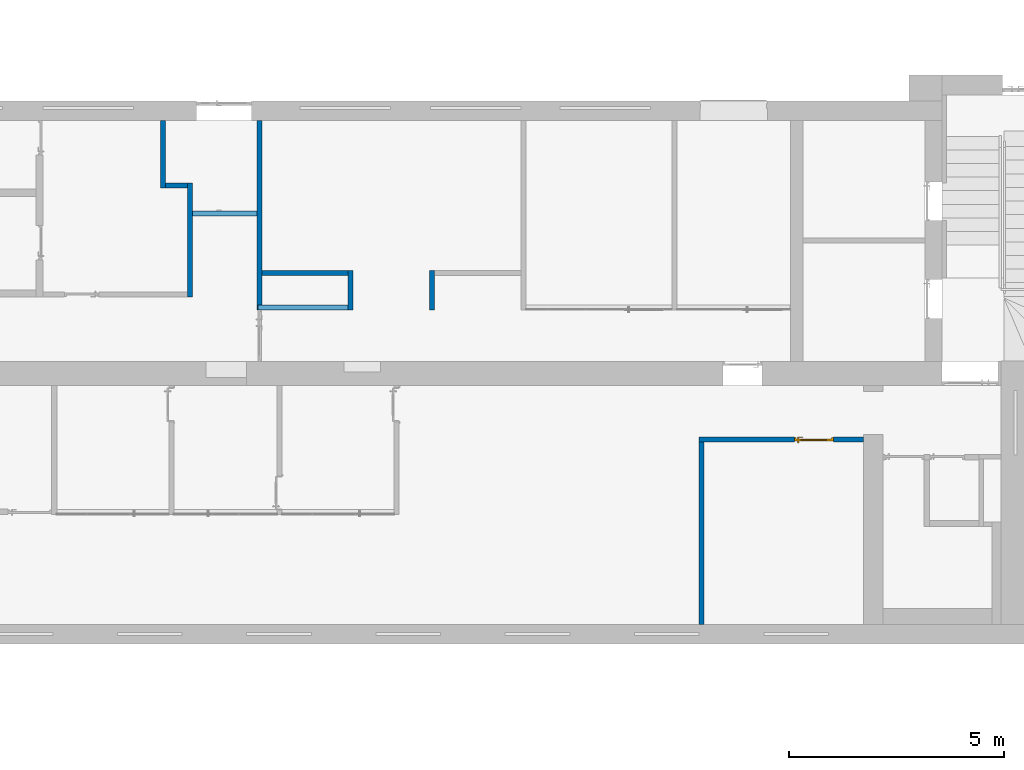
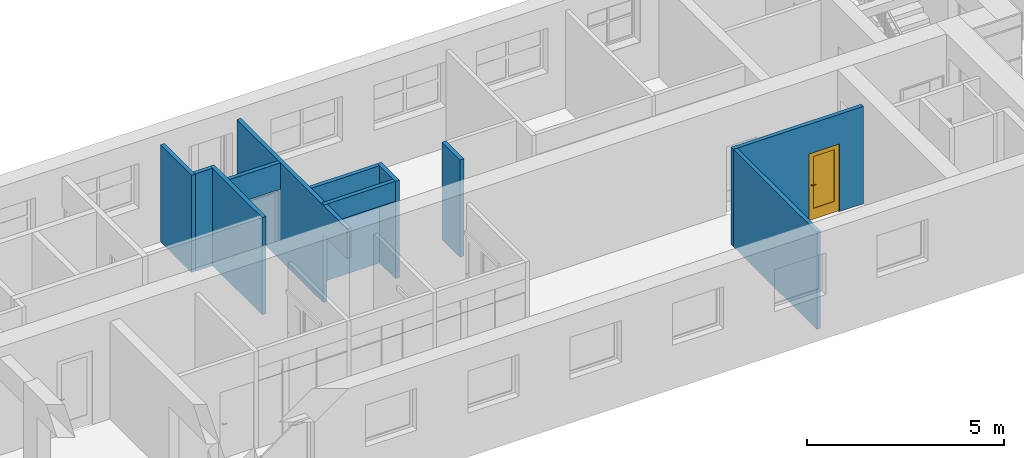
# One storey, part 24 of 49: 11 walls, 1 door, 4 openings.
"""IFC2X3 building model written with IfcOpenShell, lengths in millimetres."""

from ifc_helpers import new_model, entity, si_unit, converted_unit, derived_unit, direction, frame, frame_2d, origin, place, context, subcontext, project, spatial, rectangle, extrude, faceted_brep, source, transform, mapped, material, material_list, layer, layer_set, layer_usage, type_object, type_shapes, element, fill, save


model = new_model("IFC2X3")

# Units and contexts
model_context = context("Model", 3, precision=0.01, world=origin(), true_north=direction((6.12303176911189e-17, 1.0)))
body_context = subcontext(model_context, "Body", "Model", "MODEL_VIEW")
ifc_project = project(units=[si_unit("LENGTHUNIT", "METRE", prefix="MILLI"), si_unit("AREAUNIT", "SQUARE_METRE"), si_unit("VOLUMEUNIT", "CUBIC_METRE"), converted_unit("PLANEANGLEUNIT", "DEGREE", entity("IfcRatioMeasure", 0.0174532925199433), si_unit("PLANEANGLEUNIT", "RADIAN"), dimensions=[0, 0, 0, 0, 0, 0, 0]), si_unit("MASSUNIT", "GRAM", prefix="KILO"), derived_unit("MASSDENSITYUNIT", [(si_unit("MASSUNIT", "GRAM", prefix="KILO"), 1), (si_unit("LENGTHUNIT", "METRE"), -3)]), si_unit("TIMEUNIT", "SECOND"), si_unit("FREQUENCYUNIT", "HERTZ"), si_unit("THERMODYNAMICTEMPERATUREUNIT", "DEGREE_CELSIUS"), derived_unit("THERMALTRANSMITTANCEUNIT", [(si_unit("MASSUNIT", "GRAM", prefix="KILO"), 1), (si_unit("THERMODYNAMICTEMPERATUREUNIT", "KELVIN"), -1), (si_unit("TIMEUNIT", "SECOND"), -3)]), derived_unit("VOLUMETRICFLOWRATEUNIT", [(si_unit("LENGTHUNIT", "METRE"), 3), (si_unit("TIMEUNIT", "SECOND"), -1)]), si_unit("ELECTRICCURRENTUNIT", "AMPERE"), si_unit("ELECTRICVOLTAGEUNIT", "VOLT"), si_unit("POWERUNIT", "WATT"), si_unit("FORCEUNIT", "NEWTON", prefix="KILO"), si_unit("ILLUMINANCEUNIT", "LUX"), si_unit("LUMINOUSFLUXUNIT", "LUMEN"), si_unit("LUMINOUSINTENSITYUNIT", "CANDELA"), derived_unit("USERDEFINED", [(si_unit("MASSUNIT", "GRAM", prefix="KILO"), -1), (si_unit("LENGTHUNIT", "METRE"), -2), (si_unit("TIMEUNIT", "SECOND"), 3), (si_unit("LUMINOUSFLUXUNIT", "LUMEN"), 1)]), derived_unit("LINEARVELOCITYUNIT", [(si_unit("LENGTHUNIT", "METRE"), 1), (si_unit("TIMEUNIT", "SECOND"), -1)]), si_unit("PRESSUREUNIT", "PASCAL"), derived_unit("USERDEFINED", [(si_unit("LENGTHUNIT", "METRE"), -2), (si_unit("MASSUNIT", "GRAM", prefix="KILO"), 1), (si_unit("TIMEUNIT", "SECOND"), -2)])], contexts=[model_context])

# Site, building, storey
site_placement = place(None, frame((-151.875543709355, 2715.0, 0.0)))
site = spatial("IfcSite", under=ifc_project, at=site_placement, Name="Surface", CompositionType="ELEMENT")
building_placement = place(site_placement, origin())
building = spatial("IfcBuilding", under=site, at=building_placement, CompositionType="ELEMENT")
storey_placement = place(building_placement, origin())
storey = spatial("IfcBuildingStorey", under=building, at=storey_placement, Name="1 korrus", CompositionType="ELEMENT", Elevation=3.0969999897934e-10)

# Wall, opening, door
ifc_material_1 = material(Name="__Kips GN13_tava")
ifc_layer_1 = layer(ifc_material_1, 12.5)
ifc_layer_2 = layer(ifc_material_1, 12.5)
ifc_material_2 = material(Name="__Soojustus EPS")
ifc_layer_3 = layer(ifc_material_2, 66.0)
ifc_layer_4 = layer(ifc_material_1, 12.5)
ifc_layer_5 = layer(ifc_material_1, 12.5)
ifc_layer_set = layer_set([ifc_layer_1, ifc_layer_2, ifc_layer_3, ifc_layer_4, ifc_layer_5], Name="Basic Wall:SS-3_Kipssein tava ruumide vahel")
ifc_layer_usage_1 = layer_usage(ifc_layer_set, "AXIS2", "POSITIVE", -58.0)
wall_type = type_object("IfcWallType", Name="Basic Wall:SS-3_Kipssein tava ruumide vahel", PredefinedType="STANDARD", material=ifc_layer_set)
wall_1_placement = place(storey_placement, frame((26730.74126427, 4752.0, 0.0)))
wall_1 = element("IfcWallStandardCase", 1, at=wall_1_placement, inside=storey, type_object=wall_type, material=ifc_layer_usage_1, Name="Basic Wall:SS-3_Kipssein tava ruumide vahel", ObjectType="Basic Wall:SS-3_Kipssein tava ruumide vahel", context=body_context, shape_type="SweptSolid", body=[
    extrude(rectangle(XDim=3813.27589513, YDim=116.0, at=frame_2d((1906.637947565, 6.3948846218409e-14), x_axis=(-1.0, 0.0))), origin(), (0.0, 0.0, 1.0), 3020.0),
])
opening_1_placement = place(wall_1_placement, frame((3113.27589521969, 58.0, 0.0)))
opening_1 = element("IfcOpeningElement", 2, at=opening_1_placement, cuts=wall_1, Name="Ühepoolsed:SU-02:1", ObjectType="Opening", context=body_context, shape_type="SweptSolid", body=[
    extrude(rectangle(XDim=2099.99999999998, YDim=900.0, at=frame_2d((1049.99999999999, 450.0), x_axis=(1.0, 0.0))), frame((0.0, 0.0, 0.0), z_axis=(0.0, -1.0, 0.0), x_axis=(0.0, 0.0, 1.0)), (0.0, 0.0, 1.0), 116.0),
])
ifc_material_3 = material(Name="_Alumiiniumprofiil - must")
ifc_material_4 = material(Name="__Uks_hele tamm")
ifc_material_5 = material(Name="Glass")
ifc_material_list_1 = material_list([ifc_material_3, ifc_material_4, ifc_material_5])
ifc_material_list_2 = material_list([ifc_material_3, ifc_material_4, ifc_material_5])
door_style = type_object("IfcDoorStyle", Name="SU-02", ConstructionType="NOTDEFINED", OperationType="FOLDING_TO_LEFT", ParameterTakesPrecedence=False, Sizeable=False, material=ifc_material_list_2)
shared_shape = source(origin(), body_context, "Body", "Brep", [
    faceted_brep([(800.0, 6.0, 1112.5), (705.0, 6.0, 1112.5), (705.0, 1.0, 1112.5), (825.0, 1.0, 1112.5), (825.0, 44.0, 1112.5), (800.0, 44.0, 1112.5), (800.0, 6.0, 1087.5), (800.0, 44.0, 1087.5), (825.0, 44.0, 1087.5), (825.0, 1.0, 1087.5), (705.0, 1.0, 1087.5), (705.0, 6.0, 1087.5)], [[[0, 1, 2, 3, 4, 5]], [[6, 7, 8, 9, 10, 11]], [[5, 7, 6, 0]], [[4, 8, 7, 5]], [[3, 9, 8, 4]], [[2, 10, 9, 3]], [[1, 11, 10, 2]], [[0, 6, 11, 1]]]),
    faceted_brep([(787.500000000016, 44.0, 1137.5), (837.500000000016, 44.0, 1137.5), (837.500000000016, 46.0, 1137.5), (787.500000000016, 46.0, 1137.5), (787.500000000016, 44.0, 1017.5), (787.500000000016, 46.0, 1017.5), (837.500000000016, 46.0, 1017.5), (837.500000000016, 44.0, 1017.5)], [[[0, 1, 2, 3]], [[4, 5, 6, 7]], [[3, 5, 4, 0]], [[2, 6, 5, 3]], [[1, 7, 6, 2]], [[0, 4, 7, 1]]]),
    faceted_brep([(800.0, 136.0, 1112.5), (800.0, 98.0, 1112.5), (825.0, 98.0, 1112.5), (825.0, 141.0, 1112.5), (705.0, 141.0, 1112.5), (705.0, 136.0, 1112.5), (800.0, 136.0, 1087.5), (705.0, 136.0, 1087.5), (705.0, 141.0, 1087.5), (825.0, 141.0, 1087.5), (825.0, 98.0, 1087.5), (800.0, 98.0, 1087.5)], [[[0, 1, 2, 3, 4, 5]], [[6, 7, 8, 9, 10, 11]], [[1, 0, 6, 11]], [[2, 1, 11, 10]], [[3, 2, 10, 9]], [[4, 3, 9, 8]], [[5, 4, 8, 7]], [[0, 5, 7, 6]]]),
    faceted_brep([(787.500000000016, 98.0, 1137.5), (787.500000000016, 96.0, 1137.5), (837.500000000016, 96.0, 1137.5), (837.500000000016, 98.0, 1137.5), (787.500000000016, 98.0, 1017.5), (837.500000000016, 98.0, 1017.5), (837.500000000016, 96.0, 1017.5), (787.500000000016, 96.0, 1017.5)], [[[0, 1, 2, 3]], [[4, 5, 6, 7]], [[1, 0, 4, 7]], [[2, 1, 7, 6]], [[3, 2, 6, 5]], [[0, 3, 5, 4]]]),
    faceted_brep([(0.0, 6.0, 0.0), (0.0, 96.0, 0.0), (25.0, 96.0, 0.0), (25.0, 46.0, 0.0), (40.0, 46.0, 0.0), (40.0, 6.0, 0.0), (40.0, 6.0, 2060.0), (860.0, 6.0, 2060.0), (860.0, 6.0, 0.0), (900.0, 6.0, 0.0), (900.0, 6.0, 2100.0), (0.0, 6.0, 2100.0), (40.0, 46.0, 2060.0), (25.0, 46.0, 2075.0), (875.0, 46.0, 2075.0), (875.0, 46.0, 0.0), (860.0, 46.0, 0.0), (860.0, 46.0, 2060.0), (25.0, 96.0, 2075.0), (0.0, 96.0, 2100.0), (900.0, 96.0, 2100.0), (900.0, 96.0, 0.0), (875.0, 96.0, 0.0), (875.0, 96.0, 2075.0)], [[[0, 1, 2, 3, 4, 5]], [[5, 6, 7, 8, 9, 10, 11, 0]], [[4, 12, 6, 5]], [[3, 13, 14, 15, 16, 17, 12, 4]], [[2, 18, 13, 3]], [[1, 19, 20, 21, 22, 23, 18, 2]], [[0, 11, 19, 1]], [[9, 21, 20, 10]], [[8, 16, 15, 22, 21, 9]], [[7, 17, 16, 8]], [[14, 23, 22, 15]], [[6, 12, 17, 7]], [[13, 18, 23, 14]], [[10, 20, 19, 11]]]),
    faceted_brep([(140.0, 61.0, 350.0), (760.0, 61.0, 350.0), (760.0, 61.0, 1960.0), (140.0, 61.0, 1960.0), (140.0, 81.0, 350.0), (140.0, 81.0, 1960.0), (760.0, 81.0, 1960.0), (760.0, 81.0, 350.0)], [[[0, 1, 2, 3]], [[4, 5, 6, 7]], [[3, 5, 4, 0]], [[2, 6, 5, 3]], [[1, 7, 6, 2]], [[0, 4, 7, 1]]]),
    faceted_brep([(25.0, 46.0, 20.0), (875.0, 46.0, 20.0), (875.0, 46.0, 2075.0), (25.0, 46.0, 2075.0), (760.0, 46.0, 350.0), (140.0, 46.0, 350.0), (140.0, 46.0, 1960.0), (760.0, 46.0, 1960.0), (25.0, 96.0, 20.0), (25.0, 96.0, 2075.0), (875.0, 96.0, 2075.0), (875.0, 96.0, 20.0), (760.0, 96.0, 1960.0), (140.0, 96.0, 1960.0), (140.0, 96.0, 350.0), (760.0, 96.0, 350.0)], [[[0, 1, 2, 3], [4, 5, 6, 7]], [[8, 9, 10, 11], [12, 13, 14, 15]], [[3, 9, 8, 0]], [[2, 10, 9, 3]], [[1, 11, 10, 2]], [[0, 8, 11, 1]], [[12, 15, 4, 7]], [[15, 14, 5, 4]], [[14, 13, 6, 5]], [[7, 6, 13, 12]]]),
])
type_shapes(door_style, [shared_shape])
door_placement = place(opening_1_placement, frame((0.0, 0.0, 0.0), z_axis=(0.0, 0.0, 1.0), x_axis=(-1.0, 0.0, 0.0)))
door = element("IfcDoor", 3, at=door_placement, inside=storey, type_object=door_style, material=ifc_material_list_1, Name="Ühepoolsed:SU-02", ObjectType="SU-02", OverallHeight=2099.99999999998, OverallWidth=899.999999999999, context=body_context, shape_type="MappedRepresentation", body=[
    mapped(shared_shape, transform((0.0, 0.0, 0.0), scale=1.0)),
])
fill(opening_1, door)

# Walls
ifc_layer_usage_2 = layer_usage(ifc_layer_set, "AXIS2", "POSITIVE", -58.0)
wall_2_placement = place(storey_placement, frame((26788.74126427, 459.904632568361, 0.0), z_axis=(0.0, 0.0, 1.0), x_axis=(0.0, 1.0, 0.0)))
element("IfcWallStandardCase", 4, at=wall_2_placement, inside=storey, type_object=wall_type, material=ifc_layer_usage_2, Name="Basic Wall:SS-3_Kipssein tava ruumide vahel", ObjectType="Basic Wall:SS-3_Kipssein tava ruumide vahel", context=body_context, shape_type="SweptSolid", body=[
    extrude(rectangle(XDim=4234.09536743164, YDim=116.0, at=frame_2d((2117.04768371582, -1.19371179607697e-12), x_axis=(-1.0, 0.0))), origin(), (0.0, 0.0, 1.0), 3020.0),
])
ifc_layer_usage_3 = layer_usage(ifc_layer_set, "AXIS2", "POSITIVE", -58.0)
wall_3_placement = place(storey_placement, frame((14909.485790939, 8061.3062297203, 0.0), z_axis=(0.0, 0.0, 1.0), x_axis=(0.0, 1.0, 0.0)))
element("IfcWallStandardCase", 5, at=wall_3_placement, inside=storey, type_object=wall_type, material=ifc_layer_usage_3, Name="Basic Wall:SS-3_Kipssein tava ruumide vahel", ObjectType="Basic Wall:SS-3_Kipssein tava ruumide vahel", context=body_context, shape_type="SweptSolid", body=[
    extrude(rectangle(XDim=2638.69377027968, YDim=116.0, at=frame_2d((1319.34688513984, 4.2632564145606e-14), x_axis=(-1.0, 0.0))), origin(), (0.0, 0.0, 1.0), 3020.0),
])
ifc_layer_usage_4 = layer_usage(ifc_layer_set, "AXIS2", "POSITIVE", -58.0)
wall_4_placement = place(storey_placement, frame((14289.4857126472, 10584.0, 0.0), z_axis=(0.0, 0.0, 1.0), x_axis=(0.0, 1.0, 0.0)))
element("IfcWallStandardCase", 6, at=wall_4_placement, inside=storey, type_object=wall_type, material=ifc_layer_usage_4, Name="Basic Wall:SS-3_Kipssein tava ruumide vahel", ObjectType="Basic Wall:SS-3_Kipssein tava ruumide vahel", context=body_context, shape_type="SweptSolid", body=[
    extrude(rectangle(XDim=1566.00000000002, YDim=116.0, at=frame_2d((783.000000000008, -2.48689957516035e-13), x_axis=(-1.0, 0.0))), origin(), (0.0, 0.0, 1.0), 3020.0),
])
ifc_layer_usage_5 = layer_usage(ifc_layer_set, "AXIS2", "NEGATIVE", 58.0)
wall_5_placement = place(storey_placement, frame((14347.4857126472, 10642.0, 0.0)))
element("IfcWallStandardCase", 7, at=wall_5_placement, inside=storey, type_object=wall_type, material=ifc_layer_usage_5, Name="Basic Wall:SS-3_Kipssein tava ruumide vahel", ObjectType="Basic Wall:SS-3_Kipssein tava ruumide vahel", context=body_context, shape_type="SweptSolid", body=[
    extrude(rectangle(XDim=504.000078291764, YDim=116.0, at=frame_2d((252.000039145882, -2.02504679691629e-13), x_axis=(-1.0, 0.0))), origin(), (0.0, 0.0, 1.0), 3020.0),
])

# Wall, openings
ifc_layer_usage_6 = layer_usage(ifc_layer_set, "AXIS2", "POSITIVE", -58.0)
wall_6_placement = place(storey_placement, frame((16525.485790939, 6560.0, 0.0), z_axis=(0.0, 0.0, 1.0), x_axis=(0.0, 1.0, 0.0)))
wall_6 = element("IfcWallStandardCase", 8, at=wall_6_placement, inside=storey, type_object=wall_type, material=ifc_layer_usage_6, Name="Basic Wall:SS-3_Kipssein tava ruumide vahel", ObjectType="Basic Wall:SS-3_Kipssein tava ruumide vahel", context=body_context, shape_type="SweptSolid", body=[
    extrude(rectangle(XDim=5590.0, YDim=116.0, at=frame_2d((2795.0, 6.00408611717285e-13), x_axis=(-1.0, 0.0))), origin(), (0.0, 0.0, 1.0), 3020.0),
])
opening_2_placement = place(wall_6_placement, origin())
element("IfcOpeningElement", 9, at=opening_2_placement, cuts=wall_6, Name="Basic Wall:SS-3_Kipssein tava ruumide vahel", ObjectType="Opening", context=body_context, shape_type="SweptSolid", body=[
    extrude(rectangle(XDim=2199.99999999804, YDim=116.0, at=frame_2d((0.0, 0.0), x_axis=(0.0, 1.0))), frame((3432.46321575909, 58.0, 1100.0), z_axis=(0.0, 1.0, 0.0), x_axis=(-1.0, 0.0, 0.0)), (0.0, 0.0, 1.0), 1500.0),
])
opening_3_placement = place(wall_6_placement, frame((0.0, -58.0, 0.0)))
element("IfcOpeningElement", 10, at=opening_3_placement, cuts=wall_6, Name="Kahepoolsed:SU-21:1", ObjectType="Opening", context=body_context, shape_type="SweptSolid", body=[
    extrude(rectangle(XDim=2099.99999999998, YDim=1200.0, at=frame_2d((1049.99999999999, 600.0), x_axis=(1.0, 0.0))), frame((0.0, 0.0, 0.0), z_axis=(0.0, 1.0, 0.0), x_axis=(0.0, 0.0, 1.0)), (0.0, 0.0, 1.0), 116.0),
])

# Walls
ifc_layer_usage_7 = layer_usage(ifc_layer_set, "AXIS2", "POSITIVE", -58.0)
wall_7_placement = place(storey_placement, frame((18641.485790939, 7760.0, 0.0), z_axis=(0.0, 0.0, 1.0), x_axis=(0.0, 1.0, 0.0)))
element("IfcWallStandardCase", 11, at=wall_7_placement, inside=storey, type_object=wall_type, material=ifc_layer_usage_7, Name="Basic Wall:SS-3_Kipssein tava ruumide vahel", ObjectType="Basic Wall:SS-3_Kipssein tava ruumide vahel", context=body_context, shape_type="SweptSolid", body=[
    extrude(rectangle(XDim=916.000000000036, YDim=116.0, at=frame_2d((458.000000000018, 8.56203996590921e-13), x_axis=(-1.0, 0.0))), origin(), (0.0, 0.0, 1.0), 3020.0),
])
ifc_layer_usage_8 = layer_usage(ifc_layer_set, "AXIS2", "NEGATIVE", 58.0)
wall_8_placement = place(storey_placement, frame((16583.485790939, 8618.0, 0.0)))
element("IfcWallStandardCase", 12, at=wall_8_placement, inside=storey, type_object=wall_type, material=ifc_layer_usage_8, Name="Basic Wall:SS-3_Kipssein tava ruumide vahel", ObjectType="Basic Wall:SS-3_Kipssein tava ruumide vahel", context=body_context, shape_type="SweptSolid", body=[
    extrude(rectangle(XDim=1999.99999999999, YDim=116.0, at=frame_2d((999.999999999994, -2.94875235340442e-13), x_axis=(-1.0, 0.0))), origin(), (0.0, 0.0, 1.0), 3020.0),
])

# Wall, opening
ifc_layer_usage_9 = layer_usage(ifc_layer_set, "AXIS2", "NEGATIVE", 58.0)
wall_9_placement = place(storey_placement, frame((14967.485790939, 9992.46321575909, 2200.0)))
wall_9 = element("IfcWallStandardCase", 13, at=wall_9_placement, inside=storey, type_object=wall_type, material=ifc_layer_usage_9, Name="Basic Wall:SS-3_Kipssein tava ruumide vahel", ObjectType="Basic Wall:SS-3_Kipssein tava ruumide vahel", context=body_context, shape_type="SweptSolid", body=[
    extrude(rectangle(XDim=1500.0, YDim=116.0, at=frame_2d((749.999999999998, 0.0), x_axis=(-1.0, 0.0))), origin(), (0.0, 0.0, 1.0), 820.000000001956),
])
opening_4_placement = place(wall_9_placement, frame((0.0, -58.0, -2200.0)))
element("IfcOpeningElement", 14, at=opening_4_placement, cuts=wall_9, Name="Kahepoolsed:SU-14:1", ObjectType="Opening", context=body_context, shape_type="SweptSolid", body=[
    extrude(rectangle(XDim=2199.99999999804, YDim=1500.0, at=frame_2d((1099.99999999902, 750.0), x_axis=(1.0, 0.0))), frame((0.0, 0.0, 0.0), z_axis=(0.0, 1.0, 0.0), x_axis=(0.0, 0.0, 1.0)), (0.0, 0.0, 1.0), 116.0),
])

# Walls
ifc_layer_usage_10 = layer_usage(ifc_layer_set, "AXIS2", "NEGATIVE", 58.0)
wall_10_placement = place(storey_placement, frame((16492.2300720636, 7818.0, 2400.0)))
element("IfcWallStandardCase", 15, at=wall_10_placement, inside=storey, type_object=wall_type, material=ifc_layer_usage_10, Name="Basic Wall:SS-3_Kipssein tava ruumide vahel", ObjectType="Basic Wall:SS-3_Kipssein tava ruumide vahel", context=body_context, shape_type="SweptSolid", body=[
    extrude(rectangle(XDim=2091.25571887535, YDim=116.0, at=frame_2d((1045.62785943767, 6.03961325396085e-14), x_axis=(-1.0, 0.0))), origin(), (0.0, 0.0, 1.0), 620.0),
])
ifc_layer_usage_11 = layer_usage(ifc_layer_set, "AXIS2", "NEGATIVE", 58.0)
wall_11_placement = place(storey_placement, frame((20535.5484515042, 7758.0, 0.0), z_axis=(0.0, 0.0, 1.0), x_axis=(0.0, 1.0, 0.0)))
element("IfcWallStandardCase", 16, at=wall_11_placement, inside=storey, type_object=wall_type, material=ifc_layer_usage_11, Name="Basic Wall:SS-3_Kipssein tava ruumide vahel", ObjectType="Basic Wall:SS-3_Kipssein tava ruumide vahel", context=body_context, shape_type="SweptSolid", body=[
    extrude(rectangle(XDim=917.999999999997, YDim=116.0, at=frame_2d((458.999999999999, 1.30384592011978e-12), x_axis=(-1.0, 0.0))), origin(), (0.0, 0.0, 1.0), 3020.0),
])

save(model, "model.ifc")
